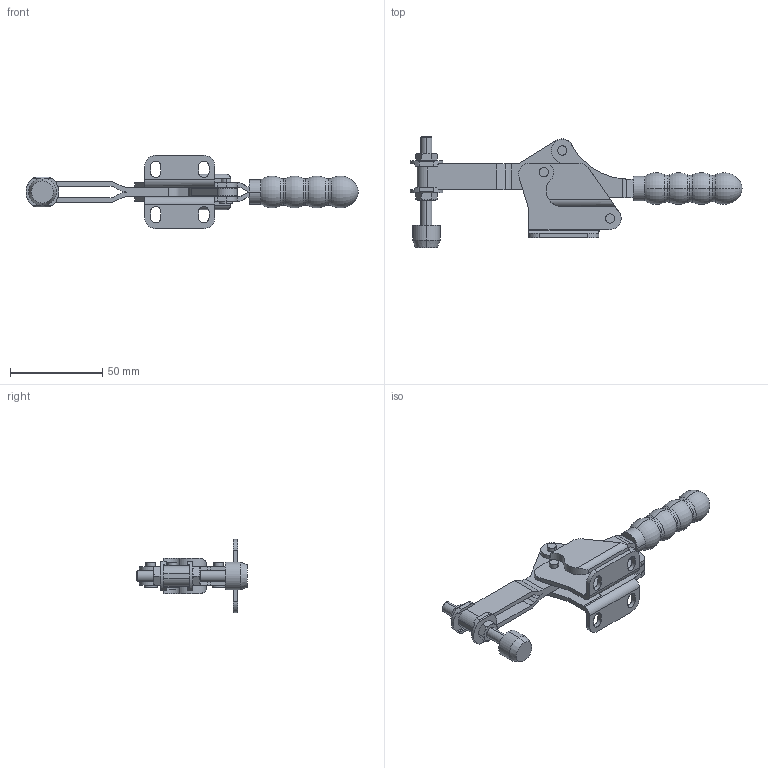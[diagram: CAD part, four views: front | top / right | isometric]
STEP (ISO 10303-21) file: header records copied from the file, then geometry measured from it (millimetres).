
FILE_DESCRIPTION( ( '' ), '1' );
FILE_NAME( '//partserver002.servicenet/client_exchange/iodir/jobs/output/wkb5782488_no6/STEP/h150_2b_2_14b.stp', '2006-11-29T10:29:42', ( '' ), ( '' ), ' ', ' ', ' ' );
FILE_SCHEMA( ( 'automotive_design' ) );
Length unit declared in the file: millimetre
Products named in the file (8): 1; 2; 3; 4; 5; 6; 7; 8
Bounding box: 179.77 x 60.1 x 39.7 mm (x, y, z)
Volume: 39412.7 mm3; surface area: 27371.2 mm2
Topology: 8 solids, 8 shells, 306 faces, 786 edges, 510 vertices
Faces by surface type: plane 125, cylinder 123, cone 36, torus 20, sphere 2
Entity records: 18688 total; most frequent: CARTESIAN_POINT 1960, DIRECTION 1671, STYLED_ITEM 1610, PRESENTATION_STYLE_ASSIGNMENT 1610, COLOUR_RGB 1610, ORIENTED_EDGE 1572, EDGE_CURVE 786, CURVE_STYLE 786
